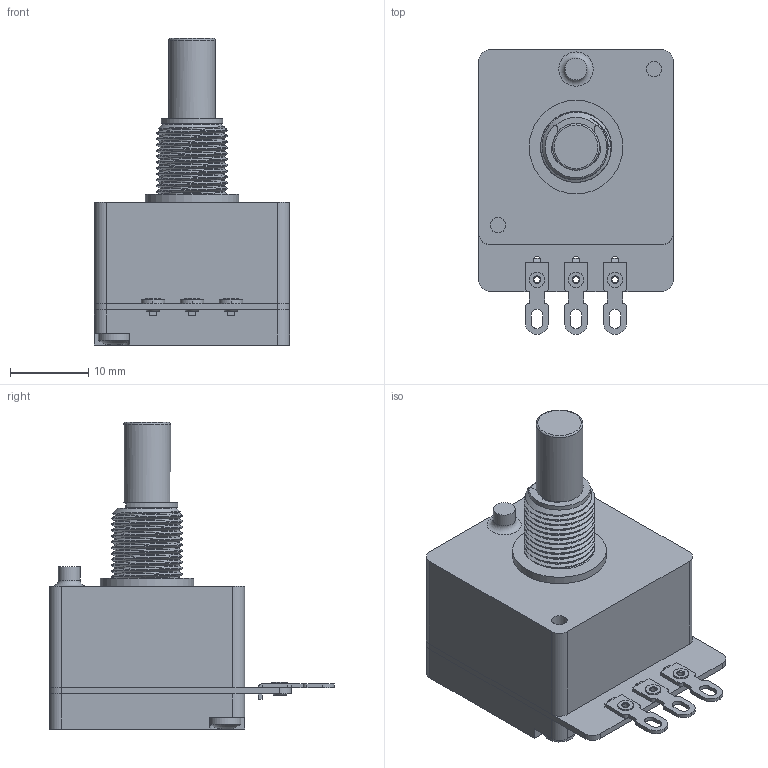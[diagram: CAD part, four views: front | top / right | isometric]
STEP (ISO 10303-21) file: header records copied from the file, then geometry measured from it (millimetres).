
FILE_DESCRIPTION(('FreeCAD Model'),'2;1');
FILE_NAME('Open CASCADE Shape Model','2023-03-22T13:46:45',(''),(''), 'Open CASCADE STEP processor 7.6','FreeCAD','Unknown');
FILE_SCHEMA(('AUTOMOTIVE_DESIGN { 1 0 10303 214 1 1 1 1 }'));
Length unit declared in the file: millimetre
Products named in the file (1): Fusion014010
Bounding box: 25 x 36.5 x 39.37 mm (x, y, z)
Volume: 12421.2 mm3; surface area: 4527.3 mm2
Topology: 1 solids, 9 shells, 333 faces, 862 edges, 536 vertices
Faces by surface type: plane 160, cylinder 111, bspline 38, cone 15, torus 5, sphere 2, revolution 2
Full cylindrical faces by diameter (mm): 0.8 x3, 1.2 x3, 1.25 x3, 1.9 x2, 2 x7, 2.2 x6, 2.8 x1, 4.5 x1, 5.4 x1, 6 x1, 9.09 x11, 12 x1
Entity records: 30864 total; most frequent: CARTESIAN_POINT 13988, DIRECTION 2814, ORIENTED_EDGE 1718, PCURVE 1718, DEFINITIONAL_REPRESENTATION 1718, LINE 1427, VECTOR 1427, EDGE_CURVE 859
